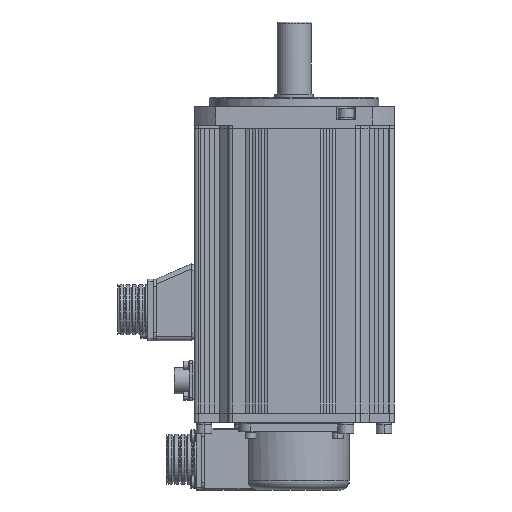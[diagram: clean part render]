
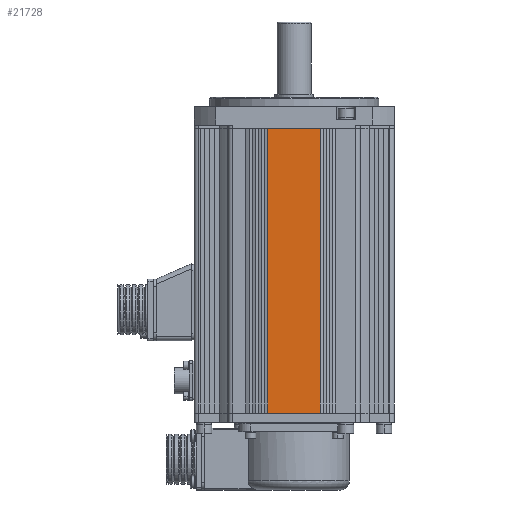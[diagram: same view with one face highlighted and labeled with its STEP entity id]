
A CAD part, front view. The second image highlights one B-rep face of the part: STEP entity #21728.
In plain terms, the highlighted planar face has unit normal (0, -1, 0) as drawn and (0, 1, 0) by its records, which use the part's own axes.
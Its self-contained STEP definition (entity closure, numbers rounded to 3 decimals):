
#14811=DIRECTION('',(0.,0.,-1.));
#14812=VECTOR('',#14811,185.);
#14813=CARTESIAN_POINT('',(-17.,65.,185.));
#14814=LINE('',#14813,#14812);
#14815=DIRECTION('',(1.,0.,0.));
#14816=VECTOR('',#14815,34.);
#14817=CARTESIAN_POINT('',(-17.,65.,0.));
#14818=LINE('',#14817,#14816);
#14823=DIRECTION('',(0.,0.,-1.));
#14824=VECTOR('',#14823,185.);
#14825=CARTESIAN_POINT('',(17.,65.,185.));
#14826=LINE('',#14825,#14824);
#15575=DIRECTION('',(1.,0.,0.));
#15576=VECTOR('',#15575,34.);
#15577=CARTESIAN_POINT('',(-17.,65.,185.));
#15578=LINE('',#15577,#15576);
#16888=CARTESIAN_POINT('',(17.,65.,0.));
#16889=VERTEX_POINT('',#16888);
#16890=CARTESIAN_POINT('',(-17.,65.,0.));
#16891=VERTEX_POINT('',#16890);
#17749=CARTESIAN_POINT('',(-17.,65.,185.));
#17750=VERTEX_POINT('',#17749);
#17751=CARTESIAN_POINT('',(17.,65.,185.));
#17752=VERTEX_POINT('',#17751);
#21715=CARTESIAN_POINT('',(65.,65.,0.));
#21716=DIRECTION('',(0.,1.,0.));
#21717=DIRECTION('',(-1.,0.,0.));
#21718=AXIS2_PLACEMENT_3D('',#21715,#21716,#21717);
#21719=PLANE('',#21718);
#21720=ORIENTED_EDGE('',*,*,#21700,.T.);
#21721=ORIENTED_EDGE('',*,*,#17950,.T.);
#21723=ORIENTED_EDGE('',*,*,#21722,.F.);
#21725=ORIENTED_EDGE('',*,*,#21724,.F.);
#21726=EDGE_LOOP('',(#21720,#21721,#21723,#21725));
#21727=FACE_OUTER_BOUND('',#21726,.F.);
#21728=ADVANCED_FACE('',(#21727),#21719,.T.);
#17950=EDGE_CURVE('',#16891,#16889,#14818,.T.);
#21700=EDGE_CURVE('',#17750,#16891,#14814,.T.);
#21722=EDGE_CURVE('',#17752,#16889,#14826,.T.);
#21724=EDGE_CURVE('',#17750,#17752,#15578,.T.);
